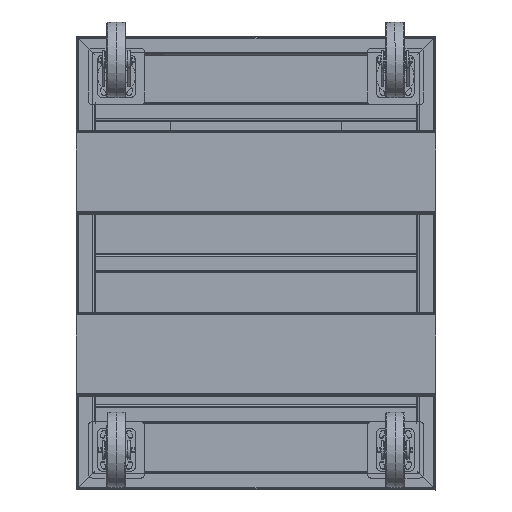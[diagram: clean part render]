
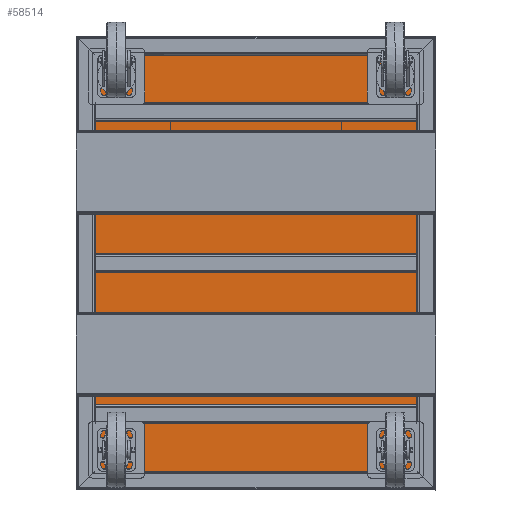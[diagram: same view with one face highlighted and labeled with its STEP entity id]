
A CAD part, front view. The second image highlights one B-rep face of the part: STEP entity #58514.
In plain terms, the highlighted planar face has unit normal (0, -1, 0).
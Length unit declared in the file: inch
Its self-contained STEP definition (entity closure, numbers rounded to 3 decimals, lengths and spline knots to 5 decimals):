
#55 = LINE ( 'NONE', #42814, #4315 ) ;
#833 = DIRECTION ( 'NONE',  ( 0., 0., 1. ) ) ;
#3482 = CARTESIAN_POINT ( 'NONE',  ( 19., -29.0625, -24. ) ) ;
#4315 = VECTOR ( 'NONE', #15554, 39.37008 ) ;
#4339 = DIRECTION ( 'NONE',  ( 0., 1., 0. ) ) ;
#7309 = VECTOR ( 'NONE', #39919, 39.37008 ) ;
#8794 = ORIENTED_EDGE ( 'NONE', *, *, #10700, .F. ) ;
#10700 = EDGE_CURVE ( 'NONE', #25543, #30765, #49123, .T. ) ;
#12738 = VECTOR ( 'NONE', #55984, 39.37008 ) ;
#13977 = CARTESIAN_POINT ( 'NONE',  ( -19., -29.0625, 24. ) ) ;
#14330 = VERTEX_POINT ( 'NONE', #17514 ) ;
#15211 = EDGE_LOOP ( 'NONE', ( #8794, #25847, #31872, #50996 ) ) ;
#15554 = DIRECTION ( 'NONE',  ( 0., 0., -1. ) ) ;
#17514 = CARTESIAN_POINT ( 'NONE',  ( 19., -29.0625, 24. ) ) ;
#17921 = PLANE ( 'NONE',  #22439 ) ;
#21663 = VERTEX_POINT ( 'NONE', #22568 ) ;
#21897 = EDGE_CURVE ( 'NONE', #30765, #14330, #26289, .T. ) ;
#22439 = AXIS2_PLACEMENT_3D ( 'NONE', #31693, #4339, #36235 ) ;
#22568 = CARTESIAN_POINT ( 'NONE',  ( 19., -29.0625, -24. ) ) ;
#24146 = CARTESIAN_POINT ( 'NONE',  ( 19., -29.0625, 24. ) ) ;
#25543 = VERTEX_POINT ( 'NONE', #46187 ) ;
#25847 = ORIENTED_EDGE ( 'NONE', *, *, #33658, .F. ) ;
#26289 = LINE ( 'NONE', #24146, #12738 ) ;
#28796 = CARTESIAN_POINT ( 'NONE',  ( -19., -29.0625, 24. ) ) ;
#30765 = VERTEX_POINT ( 'NONE', #28796 ) ;
#31693 = CARTESIAN_POINT ( 'NONE',  ( 0., -29.0625, 0. ) ) ;
#31872 = ORIENTED_EDGE ( 'NONE', *, *, #44341, .F. ) ;
#33658 = EDGE_CURVE ( 'NONE', #21663, #25543, #43631, .T. ) ;
#35597 = VECTOR ( 'NONE', #833, 39.37008 ) ;
#36235 = DIRECTION ( 'NONE',  ( 0., 0., 1. ) ) ;
#39919 = DIRECTION ( 'NONE',  ( -1., 0., 0. ) ) ;
#42814 = CARTESIAN_POINT ( 'NONE',  ( 19., -29.0625, 24. ) ) ;
#43631 = LINE ( 'NONE', #3482, #7309 ) ;
#44341 = EDGE_CURVE ( 'NONE', #14330, #21663, #55, .T. ) ;
#46187 = CARTESIAN_POINT ( 'NONE',  ( -19., -29.0625, -24. ) ) ;
#49123 = LINE ( 'NONE', #13977, #35597 ) ;
#50996 = ORIENTED_EDGE ( 'NONE', *, *, #21897, .F. ) ;
#53363 = FACE_OUTER_BOUND ( 'NONE', #15211, .T. ) ;
#55984 = DIRECTION ( 'NONE',  ( 1., 0., 0. ) ) ;
#58514 = ADVANCED_FACE ( 'NONE', ( #53363 ), #17921, .F. ) ;
